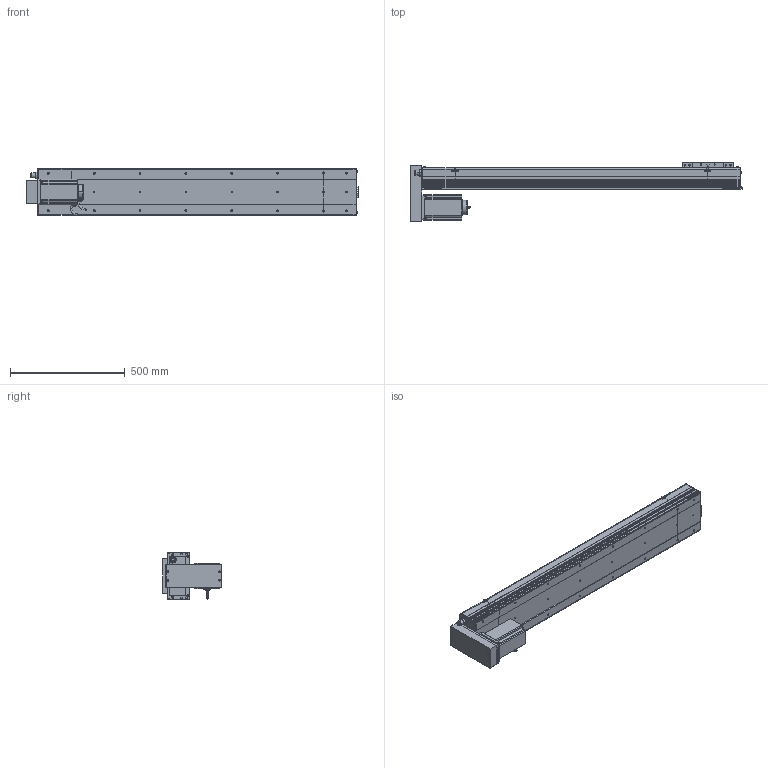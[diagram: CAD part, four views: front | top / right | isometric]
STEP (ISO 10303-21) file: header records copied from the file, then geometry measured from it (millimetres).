
FILE_DESCRIPTION (( 'STEP AP214' ), '1' );
FILE_NAME ('D20 CSH BM S1100.STEP', '2010-06-30T08:18:08', ( 'Conseil Régional Haute-Normandie' ), ( 'Conseil Régional Haute-Normandie' ), 'SwSTEP 2.0', 'SolidWorks 2010', '' );
FILE_SCHEMA (( 'AUTOMOTIVE_DESIGN' ));
Length unit declared in the file: millimetre
Products named in the file (31): D20 CSH BM S1100; Tail D20+100_Default; ecrou_Default; Plaque de Bout Tail D20_Default; Couvercle_Default; clavette; Conecteur_Default; Plaque De Serrage D20_Default; Conecteur2_Default; codeur 110BLDC170A-630x; corps 110BLDC170A-630x; Corp D20 S1100_Default; Couvercle S1100_Default; Corp S1100_Default; Chariot D20_Default; Support moteur BM D20_Default; Plaque de Bout Head BM D20_Default; avant 110BLDC170A-630x; Moteur motionking 110BLDC170A-640x; Support Chariot D20_Default; Glissiere_Default; Head BM D20_Default; Corp Head BM D20_Default; vis M5 L47_Default; Cache Moteur BM D20_Default; Plaque De Serrage Head BM D20_Default; vis M5 L15_Default; Couvercle Head BM_Default; vis M5 L30_Default; Corp Tail D20+100_Default
Assembly tree (58 placements, depth 4):
  D20 CSH BM S1100
    Corp D20 S1100_Default
      Couvercle S1100_Default
      Corp S1100_Default
    Chariot D20_Default
      Glissiere_Default
      vis M5 L15_Default  x8
      Chariot D20_Default
      Support Chariot D20_Default
    Tail D20+100_Default
      vis M5 L15_Default  x6
      Couvercle_Default
      Plaque de Bout Tail D20_Default
      Plaque De Serrage D20_Default
      Corp Tail D20+100_Default
    Head BM D20_Default
      ecrou_Default  x4
      vis M5 L15_Default  x6
      vis M5 L47_Default  x4
      Plaque De Serrage Head BM D20_Default
      vis M5 L30_Default  x4
      Plaque de Bout Head BM D20_Default
      Corp Head BM D20_Default
      Support moteur BM D20_Default
      Couvercle Head BM_Default
      Moteur motionking 110BLDC170A-640x
        clavette
        corps 110BLDC170A-630x
        Conecteur2_Default
        avant 110BLDC170A-630x
        Conecteur_Default
        codeur 110BLDC170A-630x
      Cache Moteur BM D20_Default
Bounding box: 1447.7 x 257.5 x 206 mm (x, y, z)
Volume: 11771228.8 mm3; surface area: 2220038.5 mm2
Topology: 95 solids, 95 shells, 3529 faces, 8887 edges, 5793 vertices
Faces by surface type: plane 1980, bspline 806, cylinder 605, torus 79, cone 59
Entity records: 157153 total; most frequent: CARTESIAN_POINT 81919, ORIENTED_EDGE 14922, DIRECTION 11171, EDGE_CURVE 7461, VERTEX_POINT 4941, LINE 4889, VECTOR 4889, EDGE_LOOP 3180
